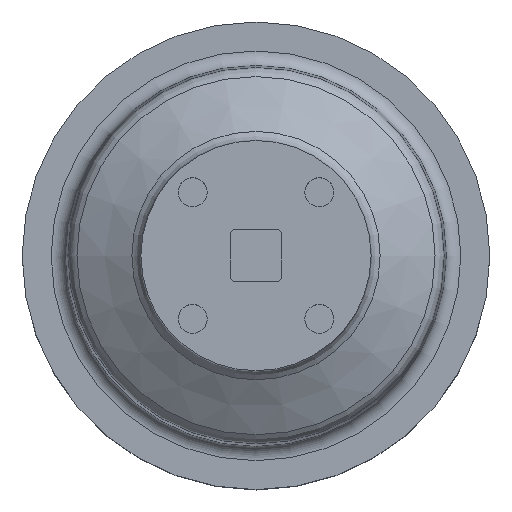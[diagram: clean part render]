
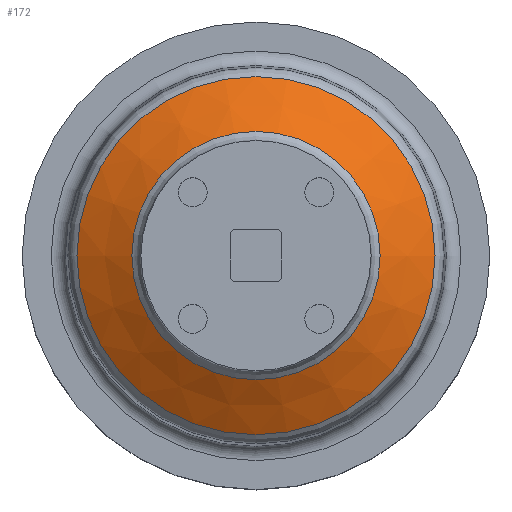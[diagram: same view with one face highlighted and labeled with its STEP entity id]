
A CAD part, top view. The second image highlights one B-rep face of the part: STEP entity #172.
In plain terms, the highlighted conical face has half-angle 60 degrees and reference radius 68.5 mm.
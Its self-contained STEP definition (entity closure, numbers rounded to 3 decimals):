
#172 = ADVANCED_FACE( '', ( #383, #384 ), #385, .T. );
#383 = FACE_OUTER_BOUND( '', #628, .T. );
#384 = FACE_BOUND( '', #629, .T. );
#385 = CONICAL_SURFACE( '', #630, 68.5, 1.047 );
#628 = EDGE_LOOP( '', ( #998 ) );
#629 = EDGE_LOOP( '', ( #999 ) );
#630 = AXIS2_PLACEMENT_3D( '', #1000, #1001, #1002 );
#998 = ORIENTED_EDGE( '', *, *, #1250, .F. );
#999 = ORIENTED_EDGE( '', *, *, #1245, .T. );
#1000 = CARTESIAN_POINT( '', ( 0., 0., 96.59 ) );
#1001 = DIRECTION( '', ( 0., 0., -1. ) );
#1002 = DIRECTION( '', ( -1., 0., 0. ) );
#1245 = EDGE_CURVE( '', #1450, #1450, #1451, .T. );
#1250 = EDGE_CURVE( '', #1456, #1456, #1457, .T. );
#1450 = VERTEX_POINT( '', #1690 );
#1451 = CIRCLE( '', #1691, 68.5 );
#1456 = VERTEX_POINT( '', #1698 );
#1457 = CIRCLE( '', #1699, 98.79 );
#1690 = CARTESIAN_POINT( '', ( -68.5, 0., 96.59 ) );
#1691 = AXIS2_PLACEMENT_3D( '', #1893, #1894, #1895 );
#1698 = CARTESIAN_POINT( '', ( -98.79, 0., 79.102 ) );
#1699 = AXIS2_PLACEMENT_3D( '', #1898, #1899, #1900 );
#1893 = CARTESIAN_POINT( '', ( 0., 0., 96.59 ) );
#1894 = DIRECTION( '', ( 0., 0., -1. ) );
#1895 = DIRECTION( '', ( -1., 0., 0. ) );
#1898 = CARTESIAN_POINT( '', ( 0., 0., 79.102 ) );
#1899 = DIRECTION( '', ( 0., 0., -1. ) );
#1900 = DIRECTION( '', ( -1., 0., 0. ) );
